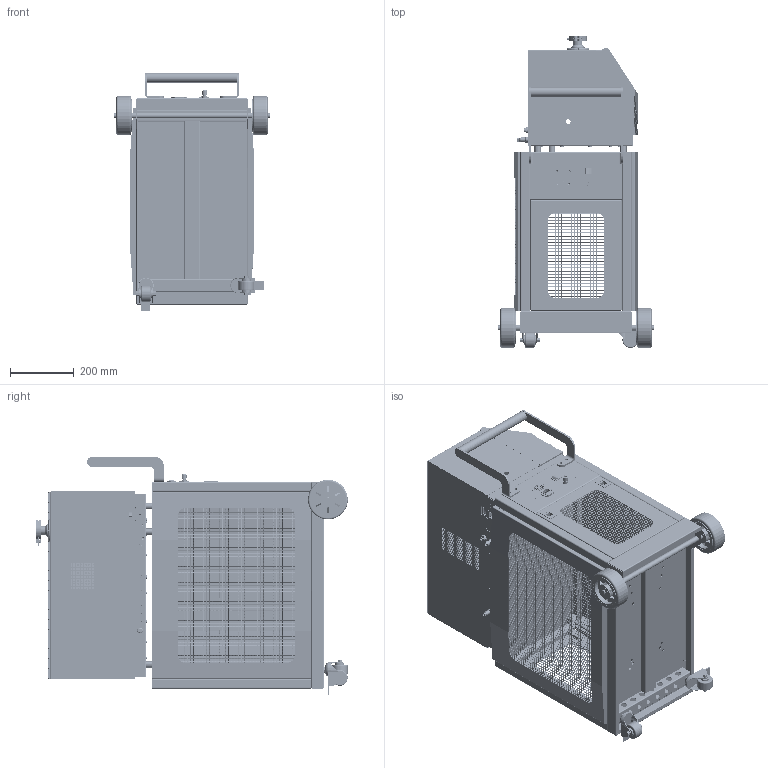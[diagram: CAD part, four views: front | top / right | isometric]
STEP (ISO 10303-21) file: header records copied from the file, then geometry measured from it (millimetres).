
FILE_DESCRIPTION (( 'STEP AP214' ), '1' );
FILE_NAME ('漱窐び潰穢痀+NHJ400.STEP', '2026-09-01T08:50:57', ( '' ), ( '' ), 'SwSTEP 2.0', 'SolidWorks 2024', '' );
FILE_SCHEMA (( 'AUTOMOTIVE_DESIGN' ));
Length unit declared in the file: millimetre
Products named in the file (1): 氦质谱检漏仪+NHJ400
Bounding box: 490 x 980.33 x 751 mm (x, y, z)
Volume: 9390456.3 mm3; surface area: 7171312.9 mm2
Topology: 199 solids, 201 shells, 19360 faces, 48845 edges, 26624 vertices
Faces by surface type: cylinder 11798, plane 5766, bspline 1392, cone 299, torus 105
Entity records: 628771 total; most frequent: CARTESIAN_POINT 204789, ORIENTED_EDGE 97550, DIRECTION 76205, EDGE_CURVE 48775, VERTEX_POINT 26624, VECTOR 26281, LINE 26281, AXIS2_PLACEMENT_3D 24962
